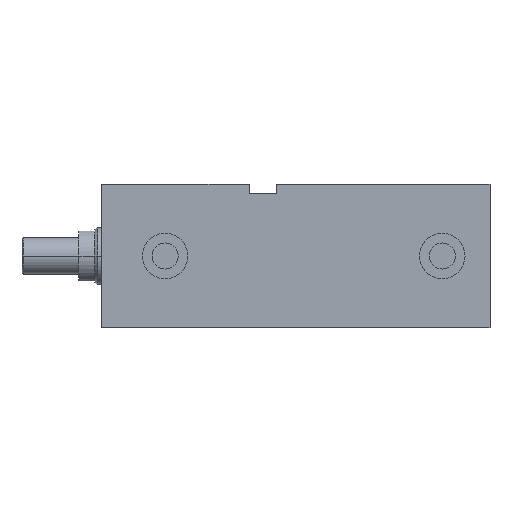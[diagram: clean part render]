
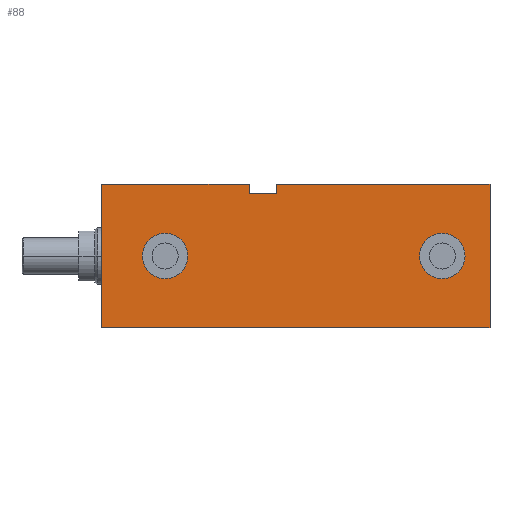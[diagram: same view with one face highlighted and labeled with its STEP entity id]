
A CAD part, left-side view. The second image highlights one B-rep face of the part: STEP entity #88.
In plain terms, the highlighted planar face has unit normal (-1, 0, 0).
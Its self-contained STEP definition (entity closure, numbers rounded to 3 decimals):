
#3 = DIRECTION ( 'NONE',  ( 0., -1., 0. ) ) ;
#9 = VERTEX_POINT ( 'NONE', #1986 ) ;
#14 = VERTEX_POINT ( 'NONE', #2734 ) ;
#22 = ORIENTED_EDGE ( 'NONE', *, *, #282, .F. ) ;
#88 = ADVANCED_FACE ( 'NONE', ( #1119, #2481, #2333 ), #866, .F. ) ;
#111 = VERTEX_POINT ( 'NONE', #2930 ) ;
#121 = VERTEX_POINT ( 'NONE', #2701 ) ;
#131 = CARTESIAN_POINT ( 'NONE',  ( -42.5, 106., 31.5 ) ) ;
#180 = ORIENTED_EDGE ( 'NONE', *, *, #787, .T. ) ;
#187 = CARTESIAN_POINT ( 'NONE',  ( -42.5, 94., 31.5 ) ) ;
#245 = EDGE_CURVE ( 'NONE', #9, #587, #691, .T. ) ;
#272 = CARTESIAN_POINT ( 'NONE',  ( -42.5, 21., 0. ) ) ;
#282 = EDGE_CURVE ( 'NONE', #587, #9, #1227, .T. ) ;
#298 = EDGE_CURVE ( 'NONE', #1933, #1035, #623, .T. ) ;
#332 = VECTOR ( 'NONE', #2603, 1000. ) ;
#344 = DIRECTION ( 'NONE',  ( -1., 0., 0. ) ) ;
#430 = AXIS2_PLACEMENT_3D ( 'NONE', #2151, #783, #2385 ) ;
#438 = ORIENTED_EDGE ( 'NONE', *, *, #569, .F. ) ;
#499 = DIRECTION ( 'NONE',  ( 0., 0., 1. ) ) ;
#541 = DIRECTION ( 'NONE',  ( 0., -1., 0. ) ) ;
#569 = EDGE_CURVE ( 'NONE', #14, #1074, #1647, .T. ) ;
#571 = CARTESIAN_POINT ( 'NONE',  ( -42.5, 71., 31.5 ) ) ;
#587 = VERTEX_POINT ( 'NONE', #2275 ) ;
#597 = VECTOR ( 'NONE', #2854, 1000. ) ;
#623 = LINE ( 'NONE', #795, #2907 ) ;
#691 = CIRCLE ( 'NONE', #430, 10. ) ;
#692 = DIRECTION ( 'NONE',  ( 0., -1., 0. ) ) ;
#702 = LINE ( 'NONE', #2726, #2455 ) ;
#724 = VECTOR ( 'NONE', #1017, 1000. ) ;
#731 = CARTESIAN_POINT ( 'NONE',  ( -42.5, 21., 0. ) ) ;
#749 = EDGE_LOOP ( 'NONE', ( #2277, #438, #1449, #2707, #1042, #949, #180, #921 ) ) ;
#783 = DIRECTION ( 'NONE',  ( -1., 0., 0. ) ) ;
#787 = EDGE_CURVE ( 'NONE', #1933, #121, #2149, .T. ) ;
#795 = CARTESIAN_POINT ( 'NONE',  ( -42.5, 171., -31.5 ) ) ;
#809 = EDGE_CURVE ( 'NONE', #1219, #2809, #2762, .T. ) ;
#866 = PLANE ( 'NONE',  #1712 ) ;
#872 = DIRECTION ( 'NONE',  ( 0., 0., -1. ) ) ;
#877 = AXIS2_PLACEMENT_3D ( 'NONE', #1716, #344, #1943 ) ;
#921 = ORIENTED_EDGE ( 'NONE', *, *, #2730, .T. ) ;
#949 = ORIENTED_EDGE ( 'NONE', *, *, #298, .F. ) ;
#960 = DIRECTION ( 'NONE',  ( 0., 0., 1. ) ) ;
#988 = EDGE_LOOP ( 'NONE', ( #2572, #22 ) ) ;
#1004 = CARTESIAN_POINT ( 'NONE',  ( -42.5, 106., 27.5 ) ) ;
#1006 = EDGE_LOOP ( 'NONE', ( #1851, #1439 ) ) ;
#1010 = VERTEX_POINT ( 'NONE', #2660 ) ;
#1017 = DIRECTION ( 'NONE',  ( 0., 0., 1. ) ) ;
#1035 = VERTEX_POINT ( 'NONE', #1515 ) ;
#1042 = ORIENTED_EDGE ( 'NONE', *, *, #2500, .F. ) ;
#1074 = VERTEX_POINT ( 'NONE', #187 ) ;
#1119 = FACE_OUTER_BOUND ( 'NONE', #749, .T. ) ;
#1130 = CARTESIAN_POINT ( 'NONE',  ( -42.5, 94., 27.5 ) ) ;
#1195 = LINE ( 'NONE', #571, #597 ) ;
#1219 = VERTEX_POINT ( 'NONE', #2025 ) ;
#1227 = CIRCLE ( 'NONE', #877, 10. ) ;
#1255 = CIRCLE ( 'NONE', #1509, 10. ) ;
#1360 = EDGE_CURVE ( 'NONE', #1010, #111, #1255, .T. ) ;
#1362 = CARTESIAN_POINT ( 'NONE',  ( -42.5, 71., 31.5 ) ) ;
#1429 = EDGE_CURVE ( 'NONE', #111, #1010, #1782, .T. ) ;
#1439 = ORIENTED_EDGE ( 'NONE', *, *, #1429, .F. ) ;
#1443 = VECTOR ( 'NONE', #692, 1000. ) ;
#1449 = ORIENTED_EDGE ( 'NONE', *, *, #2084, .F. ) ;
#1468 = DIRECTION ( 'NONE',  ( 0., 0., 1. ) ) ;
#1509 = AXIS2_PLACEMENT_3D ( 'NONE', #272, #1861, #499 ) ;
#1512 = LINE ( 'NONE', #1362, #1443 ) ;
#1515 = CARTESIAN_POINT ( 'NONE',  ( -42.5, 171., 31.5 ) ) ;
#1532 = VECTOR ( 'NONE', #541, 1000. ) ;
#1571 = VECTOR ( 'NONE', #2503, 1000. ) ;
#1647 = LINE ( 'NONE', #1130, #1571 ) ;
#1665 = AXIS2_PLACEMENT_3D ( 'NONE', #731, #2329, #960 ) ;
#1712 = AXIS2_PLACEMENT_3D ( 'NONE', #2471, #2485, #872 ) ;
#1716 = CARTESIAN_POINT ( 'NONE',  ( -42.5, 143., 0. ) ) ;
#1782 = CIRCLE ( 'NONE', #1665, 10. ) ;
#1802 = VERTEX_POINT ( 'NONE', #2140 ) ;
#1851 = ORIENTED_EDGE ( 'NONE', *, *, #1360, .F. ) ;
#1861 = DIRECTION ( 'NONE',  ( -1., 0., 0. ) ) ;
#1933 = VERTEX_POINT ( 'NONE', #2876 ) ;
#1943 = DIRECTION ( 'NONE',  ( 0., 0., 1. ) ) ;
#1944 = LINE ( 'NONE', #2845, #724 ) ;
#1986 = CARTESIAN_POINT ( 'NONE',  ( -42.5, 143., 10. ) ) ;
#2025 = CARTESIAN_POINT ( 'NONE',  ( -42.5, 106., 27.5 ) ) ;
#2084 = EDGE_CURVE ( 'NONE', #1219, #14, #702, .T. ) ;
#2123 = CARTESIAN_POINT ( 'NONE',  ( -42.5, 71., -31.5 ) ) ;
#2140 = CARTESIAN_POINT ( 'NONE',  ( -42.5, 0., 31.5 ) ) ;
#2149 = LINE ( 'NONE', #2123, #1532 ) ;
#2151 = CARTESIAN_POINT ( 'NONE',  ( -42.5, 143., 0. ) ) ;
#2275 = CARTESIAN_POINT ( 'NONE',  ( -42.5, 143., -10. ) ) ;
#2277 = ORIENTED_EDGE ( 'NONE', *, *, #2777, .F. ) ;
#2329 = DIRECTION ( 'NONE',  ( -1., 0., 0. ) ) ;
#2333 = FACE_BOUND ( 'NONE', #988, .T. ) ;
#2385 = DIRECTION ( 'NONE',  ( 0., 0., 1. ) ) ;
#2455 = VECTOR ( 'NONE', #3, 1000. ) ;
#2471 = CARTESIAN_POINT ( 'NONE',  ( -42.5, 71., -31.5 ) ) ;
#2481 = FACE_BOUND ( 'NONE', #1006, .T. ) ;
#2485 = DIRECTION ( 'NONE',  ( 1., 0., 0. ) ) ;
#2500 = EDGE_CURVE ( 'NONE', #1035, #2809, #1512, .T. ) ;
#2503 = DIRECTION ( 'NONE',  ( 0., 0., 1. ) ) ;
#2572 = ORIENTED_EDGE ( 'NONE', *, *, #245, .F. ) ;
#2603 = DIRECTION ( 'NONE',  ( 0., 0., 1. ) ) ;
#2660 = CARTESIAN_POINT ( 'NONE',  ( -42.5, 21., 10. ) ) ;
#2701 = CARTESIAN_POINT ( 'NONE',  ( -42.5, 0., -31.5 ) ) ;
#2707 = ORIENTED_EDGE ( 'NONE', *, *, #809, .T. ) ;
#2726 = CARTESIAN_POINT ( 'NONE',  ( -42.5, 106., 27.5 ) ) ;
#2730 = EDGE_CURVE ( 'NONE', #121, #1802, #1944, .T. ) ;
#2734 = CARTESIAN_POINT ( 'NONE',  ( -42.5, 94., 27.5 ) ) ;
#2762 = LINE ( 'NONE', #1004, #332 ) ;
#2777 = EDGE_CURVE ( 'NONE', #1074, #1802, #1195, .T. ) ;
#2809 = VERTEX_POINT ( 'NONE', #131 ) ;
#2845 = CARTESIAN_POINT ( 'NONE',  ( -42.5, 0., -31.5 ) ) ;
#2854 = DIRECTION ( 'NONE',  ( 0., -1., 0. ) ) ;
#2876 = CARTESIAN_POINT ( 'NONE',  ( -42.5, 171., -31.5 ) ) ;
#2907 = VECTOR ( 'NONE', #1468, 1000. ) ;
#2930 = CARTESIAN_POINT ( 'NONE',  ( -42.5, 21., -10. ) ) ;
